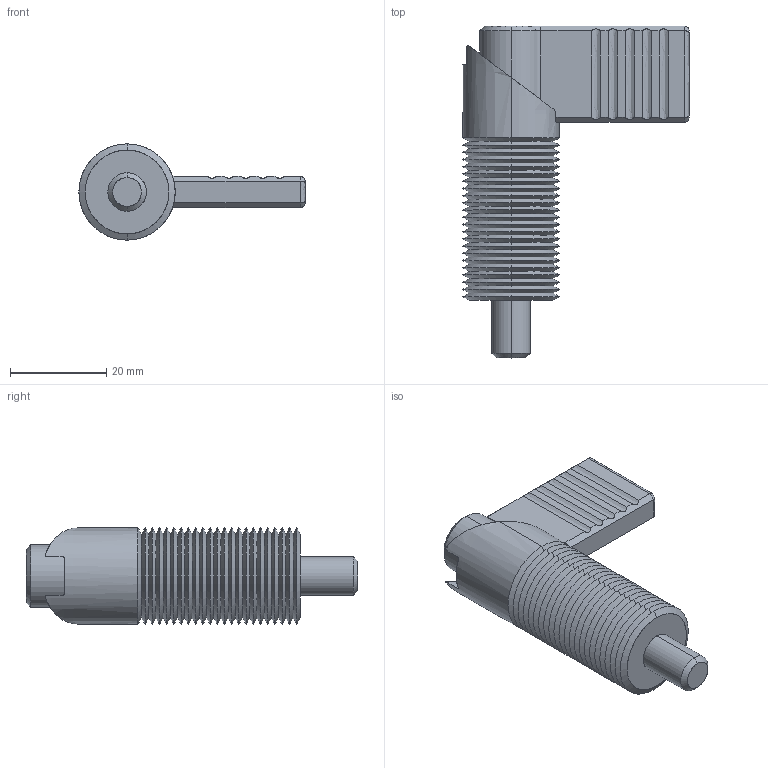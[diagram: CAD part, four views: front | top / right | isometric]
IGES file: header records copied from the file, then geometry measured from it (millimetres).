
Start section: SolidWorks IGES file using analytic representation for surfaces
Global section: file name: C:\Documents and Settings\IANO\My Documents\Wix and Auto CAD Work\CAD Models\Parametric Models\Wix Models\30000\32500_v2\32500_v2_20160309_IGES\32500.W0008.igs; native system: SolidWorks 2009; preprocessor: SolidWorks 2009; author: IANO; date: 160630.164303; units: millimetre
Bounding box: 47 x 69 x 20 mm (x, y, z)
Surface area: 10925.1 mm2 (no closed solid volume)
Topology: 0 solids, 0 shells, 171 faces, 1504 edges, 1504 vertices
Faces by surface type: revolution 144, bspline 27
